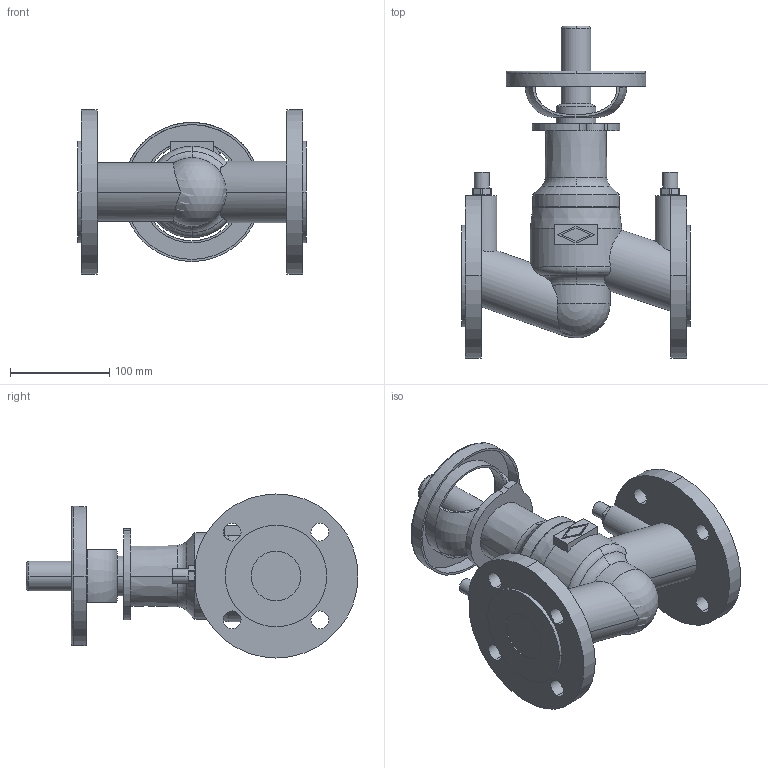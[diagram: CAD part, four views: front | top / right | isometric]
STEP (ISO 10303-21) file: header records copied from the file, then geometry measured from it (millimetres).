
FILE_DESCRIPTION( ( '' ), '1' );
FILE_NAME( 'F:/DE-SHS/TB/OR/04-Sonstiges/daten/files_3d/12020/c000000214.stp', '2015-04-28T06:36:28', ( '' ), ( '' ), ' ', ' ', ' ' );
FILE_SCHEMA( ( 'CONFIG_CONTROL_DESIGN' ) );
Length unit declared in the file: millimetre
Products named in the file (1): 1
Bounding box: 230 x 334 x 165 mm (x, y, z)
Volume: 2217737.7 mm3; surface area: 246960.7 mm2
Topology: 1 solids, 1 shells, 169 faces, 448 edges, 296 vertices
Faces by surface type: cylinder 83, plane 57, torus 20, cone 8, sphere 1
Entity records: 6562 total; most frequent: CARTESIAN_POINT 2116, DIRECTION 986, ORIENTED_EDGE 892, EDGE_CURVE 446, AXIS2_PLACEMENT_3D 402, VERTEX_POINT 296, CIRCLE 228, EDGE_LOOP 206
